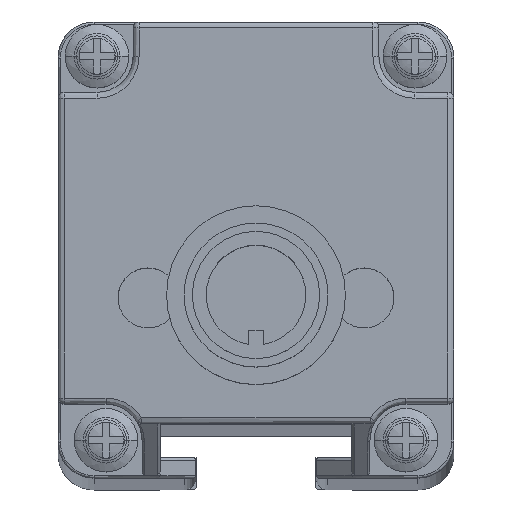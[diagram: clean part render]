
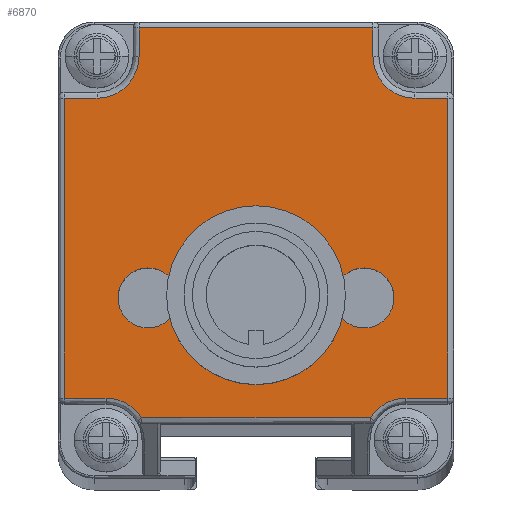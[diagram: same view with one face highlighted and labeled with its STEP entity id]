
A CAD part, top view. The second image highlights one B-rep face of the part: STEP entity #6870.
In plain terms, the highlighted planar face has unit normal (0, 0, 1).
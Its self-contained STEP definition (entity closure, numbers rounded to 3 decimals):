
#2783=CARTESIAN_POINT('',(0.65,-8.054,
445.276));
#2784=DIRECTION('',(0.,0.,1.));
#2785=DIRECTION('',(1.,0.,0.));
#2786=AXIS2_PLACEMENT_3D('',#2783,#2784,#2785);
#2788=CARTESIAN_POINT('',(0.65,-8.054,
445.276));
#2789=DIRECTION('',(0.,0.,1.));
#2790=DIRECTION('',(-1.,0.,0.));
#2791=AXIS2_PLACEMENT_3D('',#2788,#2789,#2790);
#2793=CARTESIAN_POINT('',(9.65,-8.055,445.276));
#2794=DIRECTION('',(0.,0.,1.));
#2795=DIRECTION('',(1.,-0.007,0.));
#2796=AXIS2_PLACEMENT_3D('',#2793,#2794,#2795);
#2798=CARTESIAN_POINT('',(9.65,-8.055,445.276));
#2799=DIRECTION('',(0.,0.,1.));
#2800=DIRECTION('',(-1.,0.007,0.));
#2801=AXIS2_PLACEMENT_3D('',#2798,#2799,#2800);
#2803=CARTESIAN_POINT('',(-8.35,-8.054,
445.276));
#2804=DIRECTION('',(0.,0.,1.));
#2805=DIRECTION('',(1.,0.007,0.));
#2806=AXIS2_PLACEMENT_3D('',#2803,#2804,#2805);
#2808=CARTESIAN_POINT('',(-8.35,-8.054,
445.276));
#2809=DIRECTION('',(0.,0.,1.));
#2810=DIRECTION('',(-1.,-0.007,0.));
#2811=AXIS2_PLACEMENT_3D('',#2808,#2809,#2810);
#2813=CARTESIAN_POINT('',(-11.85,-19.904,
445.276));
#2814=DIRECTION('',(0.,0.,1.));
#2815=DIRECTION('',(0.849,0.528,0.));
#2816=AXIS2_PLACEMENT_3D('',#2813,#2814,#2815);
#2818=CARTESIAN_POINT('',(-12.6,12.094,445.276));
#2819=DIRECTION('',(0.,0.,1.));
#2820=DIRECTION('',(0.,-1.,0.));
#2821=AXIS2_PLACEMENT_3D('',#2818,#2819,#2820);
#2823=CARTESIAN_POINT('',(13.9,12.094,445.276));
#2824=DIRECTION('',(0.,0.,1.));
#2825=DIRECTION('',(-1.,0.,0.));
#2826=AXIS2_PLACEMENT_3D('',#2823,#2824,#2825);
#2828=CARTESIAN_POINT('',(13.15,-19.904,445.276));
#2829=DIRECTION('',(0.,0.,1.));
#2830=DIRECTION('',(0.,1.,0.));
#2831=AXIS2_PLACEMENT_3D('',#2828,#2829,#2830);
#4547=DIRECTION('',(1.,0.,0.));
#4548=VECTOR('',#4547,19.056);
#4549=CARTESIAN_POINT('',(-8.878,-18.056,
445.276));
#4550=LINE('',#4549,#4548);
#4928=DIRECTION('',(0.,1.,0.));
#4929=VECTOR('',#4928,24.998);
#4930=CARTESIAN_POINT('',(16.65,-16.404,445.276));
#4931=LINE('',#4930,#4929);
#4951=DIRECTION('',(1.,0.,0.));
#4952=VECTOR('',#4951,3.5);
#4953=CARTESIAN_POINT('',(13.15,-16.404,445.276));
#4954=LINE('',#4953,#4952);
#4975=DIRECTION('',(-1.,0.,0.));
#4976=VECTOR('',#4975,2.75);
#4977=CARTESIAN_POINT('',(16.65,8.594,445.276));
#4978=LINE('',#4977,#4976);
#5002=DIRECTION('',(0.,1.,0.));
#5003=VECTOR('',#5002,2.35);
#5004=CARTESIAN_POINT('',(10.4,12.094,445.276));
#5005=LINE('',#5004,#5003);
#5213=DIRECTION('',(-1.,0.,0.));
#5214=VECTOR('',#5213,19.5);
#5215=CARTESIAN_POINT('',(10.4,14.444,445.276));
#5216=LINE('',#5215,#5214);
#5252=DIRECTION('',(0.,-1.,0.));
#5253=VECTOR('',#5252,2.35);
#5254=CARTESIAN_POINT('',(-9.1,14.444,445.276));
#5255=LINE('',#5254,#5253);
#5279=DIRECTION('',(-1.,0.,0.));
#5280=VECTOR('',#5279,2.75);
#5281=CARTESIAN_POINT('',(-12.6,8.594,445.276));
#5282=LINE('',#5281,#5280);
#5450=DIRECTION('',(0.,-1.,0.));
#5451=VECTOR('',#5450,24.998);
#5452=CARTESIAN_POINT('',(-15.35,8.594,445.276));
#5453=LINE('',#5452,#5451);
#5489=DIRECTION('',(1.,0.,0.));
#5490=VECTOR('',#5489,3.5);
#5491=CARTESIAN_POINT('',(-15.35,-16.404,
445.276));
#5492=LINE('',#5491,#5490);
#5953=CARTESIAN_POINT('',(12.15,-8.072,445.276));
#5954=VERTEX_POINT('',#5953);
#5955=CARTESIAN_POINT('',(7.15,-8.039,445.276));
#5956=VERTEX_POINT('',#5955);
#5957=CARTESIAN_POINT('',(-8.878,-18.056,
445.276));
#5958=CARTESIAN_POINT('',(-11.85,-16.404,
445.276));
#5959=VERTEX_POINT('',#5957);
#5960=VERTEX_POINT('',#5958);
#5961=CARTESIAN_POINT('',(-15.35,-16.404,
445.276));
#5962=VERTEX_POINT('',#5961);
#5963=CARTESIAN_POINT('',(-15.35,8.594,445.276));
#5964=VERTEX_POINT('',#5963);
#5965=CARTESIAN_POINT('',(-12.6,8.594,445.276));
#5966=VERTEX_POINT('',#5965);
#5967=CARTESIAN_POINT('',(-9.1,12.094,445.276));
#5968=VERTEX_POINT('',#5967);
#5969=CARTESIAN_POINT('',(-9.1,14.444,445.276));
#5970=VERTEX_POINT('',#5969);
#5971=CARTESIAN_POINT('',(10.4,14.444,445.276));
#5972=VERTEX_POINT('',#5971);
#5973=CARTESIAN_POINT('',(10.4,12.094,445.276));
#5974=VERTEX_POINT('',#5973);
#5975=CARTESIAN_POINT('',(13.9,8.594,445.276));
#5976=VERTEX_POINT('',#5975);
#5977=CARTESIAN_POINT('',(16.65,8.594,445.276));
#5978=VERTEX_POINT('',#5977);
#5979=CARTESIAN_POINT('',(16.65,-16.404,445.276));
#5980=VERTEX_POINT('',#5979);
#5981=CARTESIAN_POINT('',(13.15,-16.404,445.276));
#5982=VERTEX_POINT('',#5981);
#5983=CARTESIAN_POINT('',(10.178,-18.056,445.276));
#5984=VERTEX_POINT('',#5983);
#5985=CARTESIAN_POINT('',(-5.85,-8.037,
445.276));
#5986=CARTESIAN_POINT('',(-10.85,-8.07,
445.276));
#5987=VERTEX_POINT('',#5985);
#5988=VERTEX_POINT('',#5986);
#5989=CARTESIAN_POINT('',(3.65,-8.054,445.276));
#5990=CARTESIAN_POINT('',(-2.35,-8.054,
445.276));
#5991=VERTEX_POINT('',#5989);
#5992=VERTEX_POINT('',#5990);
#6819=CARTESIAN_POINT('',(0.65,0.944,
445.276));
#6820=DIRECTION('',(0.,0.,1.));
#6821=DIRECTION('',(1.,0.,0.));
#6822=AXIS2_PLACEMENT_3D('',#6819,#6820,#6821);
#6823=PLANE('',#6822);
#6825=ORIENTED_EDGE('',*,*,#6824,.T.);
#6827=ORIENTED_EDGE('',*,*,#6826,.F.);
#6829=ORIENTED_EDGE('',*,*,#6828,.F.);
#6831=ORIENTED_EDGE('',*,*,#6830,.F.);
#6833=ORIENTED_EDGE('',*,*,#6832,.T.);
#6835=ORIENTED_EDGE('',*,*,#6834,.F.);
#6837=ORIENTED_EDGE('',*,*,#6836,.F.);
#6839=ORIENTED_EDGE('',*,*,#6838,.F.);
#6841=ORIENTED_EDGE('',*,*,#6840,.T.);
#6843=ORIENTED_EDGE('',*,*,#6842,.F.);
#6845=ORIENTED_EDGE('',*,*,#6844,.F.);
#6847=ORIENTED_EDGE('',*,*,#6846,.F.);
#6849=ORIENTED_EDGE('',*,*,#6848,.T.);
#6851=ORIENTED_EDGE('',*,*,#6850,.F.);
#6852=EDGE_LOOP('',(#6825,#6827,#6829,#6831,#6833,#6835,#6837,#6839,#6841,#6843,
#6845,#6847,#6849,#6851));
#6853=FACE_OUTER_BOUND('',#6852,.F.);
#6854=ORIENTED_EDGE('',*,*,#6806,.T.);
#6855=ORIENTED_EDGE('',*,*,#6767,.T.);
#6856=EDGE_LOOP('',(#6854,#6855));
#6857=FACE_BOUND('',#6856,.F.);
#6859=ORIENTED_EDGE('',*,*,#6858,.T.);
#6861=ORIENTED_EDGE('',*,*,#6860,.T.);
#6862=EDGE_LOOP('',(#6859,#6861));
#6863=FACE_BOUND('',#6862,.F.);
#6865=ORIENTED_EDGE('',*,*,#6864,.T.);
#6867=ORIENTED_EDGE('',*,*,#6866,.T.);
#6868=EDGE_LOOP('',(#6865,#6867));
#6869=FACE_BOUND('',#6868,.F.);
#2787=CIRCLE('',#2786,3.);
#2792=CIRCLE('',#2791,3.);
#2797=CIRCLE('',#2796,2.5);
#2802=CIRCLE('',#2801,2.5);
#2807=CIRCLE('',#2806,2.5);
#2812=CIRCLE('',#2811,2.5);
#2817=CIRCLE('',#2816,3.5);
#2822=CIRCLE('',#2821,3.5);
#2827=CIRCLE('',#2826,3.5);
#2832=CIRCLE('',#2831,3.5);
#6767=EDGE_CURVE('',#5956,#5954,#2802,.T.);
#6806=EDGE_CURVE('',#5954,#5956,#2797,.T.);
#6824=EDGE_CURVE('',#5959,#5960,#2817,.T.);
#6826=EDGE_CURVE('',#5962,#5960,#5492,.T.);
#6828=EDGE_CURVE('',#5964,#5962,#5453,.T.);
#6830=EDGE_CURVE('',#5966,#5964,#5282,.T.);
#6832=EDGE_CURVE('',#5966,#5968,#2822,.T.);
#6834=EDGE_CURVE('',#5970,#5968,#5255,.T.);
#6836=EDGE_CURVE('',#5972,#5970,#5216,.T.);
#6838=EDGE_CURVE('',#5974,#5972,#5005,.T.);
#6840=EDGE_CURVE('',#5974,#5976,#2827,.T.);
#6842=EDGE_CURVE('',#5978,#5976,#4978,.T.);
#6844=EDGE_CURVE('',#5980,#5978,#4931,.T.);
#6846=EDGE_CURVE('',#5982,#5980,#4954,.T.);
#6848=EDGE_CURVE('',#5982,#5984,#2832,.T.);
#6850=EDGE_CURVE('',#5959,#5984,#4550,.T.);
#6858=EDGE_CURVE('',#5987,#5988,#2807,.T.);
#6860=EDGE_CURVE('',#5988,#5987,#2812,.T.);
#6864=EDGE_CURVE('',#5991,#5992,#2787,.T.);
#6866=EDGE_CURVE('',#5992,#5991,#2792,.T.);
#6870=ADVANCED_FACE('',(#6853,#6857,#6863,#6869),#6823,.T.);
